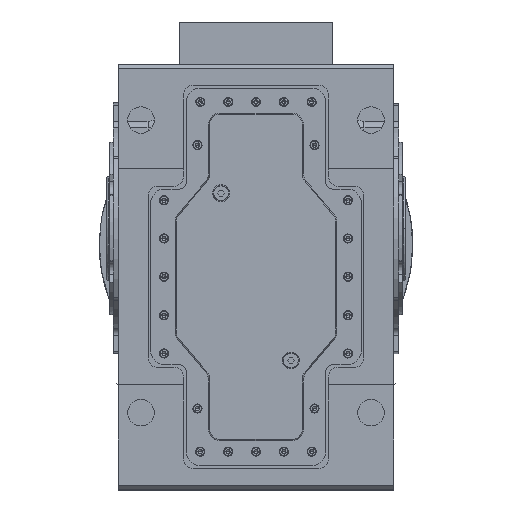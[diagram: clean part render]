
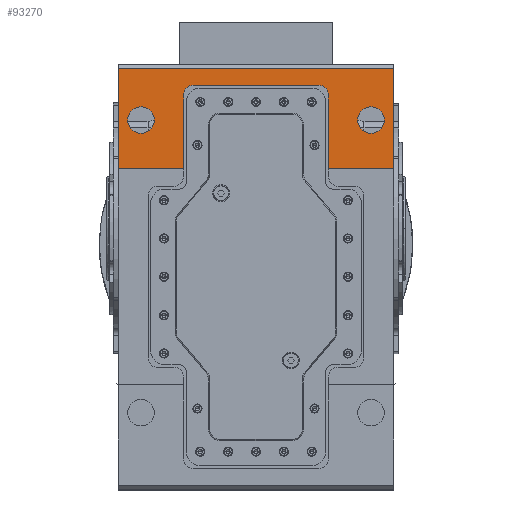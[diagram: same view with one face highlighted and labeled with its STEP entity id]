
A CAD part, top view. The second image highlights one B-rep face of the part: STEP entity #93270.
In plain terms, the highlighted planar face has unit normal (0, 0, 1).
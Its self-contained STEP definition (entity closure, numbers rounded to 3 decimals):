
#1126 = CARTESIAN_POINT ( 'NONE',  ( 146., 177.5, 687. ) ) ;
#1182 = CARTESIAN_POINT ( 'NONE',  ( 184., 177.5, 687. ) ) ;
#1190 = CARTESIAN_POINT ( 'NONE',  ( -184., 177.5, 687. ) ) ;
#1238 = CARTESIAN_POINT ( 'NONE',  ( -146., 177.5, 687. ) ) ;
#2312 = CARTESIAN_POINT ( 'NONE',  ( -104., 107.5, 687. ) ) ;
#2332 = CARTESIAN_POINT ( 'NONE',  ( 104., 213.5, 687. ) ) ;
#2398 = CARTESIAN_POINT ( 'NONE',  ( 104., 107.5, 687. ) ) ;
#2406 = CARTESIAN_POINT ( 'NONE',  ( -90., 227.5, 687. ) ) ;
#2408 = CARTESIAN_POINT ( 'NONE',  ( 90., 227.5, 687. ) ) ;
#2424 = CARTESIAN_POINT ( 'NONE',  ( -104., 213.5, 687. ) ) ;
#7280 = AXIS2_PLACEMENT_3D ( 'NONE', #29389, #29455, #29430 ) ;
#7295 = AXIS2_PLACEMENT_3D ( 'NONE', #29293, #29451, #29394 ) ;
#7453 = AXIS2_PLACEMENT_3D ( 'NONE', #30224, #30237, #30309 ) ;
#14038 = AXIS2_PLACEMENT_3D ( 'NONE', #80771, #80760, #80767 ) ;
#19401 = ORIENTED_EDGE ( 'NONE', *, *, #90608, .T. ) ;
#19405 = ORIENTED_EDGE ( 'NONE', *, *, #90591, .T. ) ;
#19408 = ORIENTED_EDGE ( 'NONE', *, *, #90567, .T. ) ;
#19415 = ORIENTED_EDGE ( 'NONE', *, *, #90581, .T. ) ;
#19416 = ORIENTED_EDGE ( 'NONE', *, *, #80485, .T. ) ;
#19418 = ORIENTED_EDGE ( 'NONE', *, *, #90977, .F. ) ;
#19442 = ORIENTED_EDGE ( 'NONE', *, *, #91003, .T. ) ;
#19448 = ORIENTED_EDGE ( 'NONE', *, *, #80465, .T. ) ;
#19456 = ORIENTED_EDGE ( 'NONE', *, *, #56300, .T. ) ;
#19482 = ORIENTED_EDGE ( 'NONE', *, *, #90768, .T. ) ;
#19498 = ORIENTED_EDGE ( 'NONE', *, *, #56368, .T. ) ;
#19528 = ORIENTED_EDGE ( 'NONE', *, *, #90713, .T. ) ;
#19533 = ORIENTED_EDGE ( 'NONE', *, *, #91014, .F. ) ;
#19537 = ORIENTED_EDGE ( 'NONE', *, *, #90989, .T. ) ;
#26829 = VECTOR ( 'NONE', #29318, 1000. ) ;
#26850 = LINE ( 'NONE', #29286, #26829 ) ;
#26853 = CIRCLE ( 'NONE', #7295, 14. ) ;
#26859 = CIRCLE ( 'NONE', #7280, 14. ) ;
#26901 = VECTOR ( 'NONE', #29437, 1000. ) ;
#26909 = LINE ( 'NONE', #29387, #26901 ) ;
#26989 = CIRCLE ( 'NONE', #7453, 19. ) ;
#27081 = LINE ( 'NONE', #28723, #27167 ) ;
#27167 = VECTOR ( 'NONE', #28705, 1000. ) ;
#28705 = DIRECTION ( 'NONE',  ( 1., 0., 0. ) ) ;
#28723 = CARTESIAN_POINT ( 'NONE',  ( -200., 107.5, 687. ) ) ;
#29286 = CARTESIAN_POINT ( 'NONE',  ( -200., 227.5, 687. ) ) ;
#29293 = CARTESIAN_POINT ( 'NONE',  ( 90., 213.5, 687. ) ) ;
#29318 = DIRECTION ( 'NONE',  ( 1., 0., 0. ) ) ;
#29387 = CARTESIAN_POINT ( 'NONE',  ( 104., 257.5, 687. ) ) ;
#29389 = CARTESIAN_POINT ( 'NONE',  ( -90., 213.5, 687. ) ) ;
#29394 = DIRECTION ( 'NONE',  ( 1., 0., 0. ) ) ;
#29430 = DIRECTION ( 'NONE',  ( 1., 0., 0. ) ) ;
#29437 = DIRECTION ( 'NONE',  ( 0., -1., 0. ) ) ;
#29451 = DIRECTION ( 'NONE',  ( 0., 0., -1. ) ) ;
#29455 = DIRECTION ( 'NONE',  ( 0., 0., -1. ) ) ;
#30224 = CARTESIAN_POINT ( 'NONE',  ( 165., 177.5, 687. ) ) ;
#30237 = DIRECTION ( 'NONE',  ( 0., 0., -1. ) ) ;
#30309 = DIRECTION ( 'NONE',  ( 1., 0., 0. ) ) ;
#31627 = CARTESIAN_POINT ( 'NONE',  ( -197.5, 229.5, 687. ) ) ;
#31687 = CARTESIAN_POINT ( 'NONE',  ( -200., 251.5, 687. ) ) ;
#31689 = DIRECTION ( 'NONE',  ( -1., 0., 0. ) ) ;
#31694 = DIRECTION ( 'NONE',  ( 0., 1., 0. ) ) ;
#31707 = CARTESIAN_POINT ( 'NONE',  ( 120., 107.5, 687. ) ) ;
#31718 = CARTESIAN_POINT ( 'NONE',  ( 197.5, 229.5, 687. ) ) ;
#31724 = DIRECTION ( 'NONE',  ( 1., 0., 0. ) ) ;
#31738 = DIRECTION ( 'NONE',  ( 0., -1., 0. ) ) ;
#31909 = LINE ( 'NONE', #31627, #31915 ) ;
#31915 = VECTOR ( 'NONE', #31694, 1000. ) ;
#32027 = VECTOR ( 'NONE', #31689, 1000. ) ;
#32056 = LINE ( 'NONE', #31687, #32027 ) ;
#32074 = LINE ( 'NONE', #31707, #32075 ) ;
#32075 = VECTOR ( 'NONE', #31724, 1000. ) ;
#32095 = VECTOR ( 'NONE', #31738, 1000. ) ;
#32137 = LINE ( 'NONE', #31718, #32095 ) ;
#33240 = CARTESIAN_POINT ( 'NONE',  ( -165., 177.5, 687. ) ) ;
#33250 = DIRECTION ( 'NONE',  ( 0., 0., -1. ) ) ;
#33256 = DIRECTION ( 'NONE',  ( 1., 0., 0. ) ) ;
#33377 = DIRECTION ( 'NONE',  ( 0., 1., 0. ) ) ;
#33385 = CARTESIAN_POINT ( 'NONE',  ( -104., 257.5, 687. ) ) ;
#46434 = CIRCLE ( 'NONE', #57473, 19. ) ;
#46481 = LINE ( 'NONE', #33385, #46520 ) ;
#46520 = VECTOR ( 'NONE', #33377, 1000. ) ;
#50698 = VERTEX_POINT ( 'NONE', #52910 ) ;
#50782 = VERTEX_POINT ( 'NONE', #53235 ) ;
#50825 = VERTEX_POINT ( 'NONE', #53165 ) ;
#50867 = VERTEX_POINT ( 'NONE', #53308 ) ;
#51650 = EDGE_LOOP ( 'NONE', ( #19442, #19533, #19537, #19418, #19482, #19498, #19405, #19408, #19415, #19401 ) ) ;
#51679 = EDGE_LOOP ( 'NONE', ( #19448, #19528 ) ) ;
#51701 = EDGE_LOOP ( 'NONE', ( #19416, #19456 ) ) ;
#52910 = CARTESIAN_POINT ( 'NONE',  ( -197.5, 107.5, 687. ) ) ;
#53165 = CARTESIAN_POINT ( 'NONE',  ( -197.5, 251.5, 687. ) ) ;
#53235 = CARTESIAN_POINT ( 'NONE',  ( 197.5, 107.5, 687. ) ) ;
#53308 = CARTESIAN_POINT ( 'NONE',  ( 197.5, 251.5, 687. ) ) ;
#56300 = EDGE_CURVE ( 'NONE', #85126, #85089, #46434, .T. ) ;
#56368 = EDGE_CURVE ( 'NONE', #84658, #84672, #46481, .T. ) ;
#57473 = AXIS2_PLACEMENT_3D ( 'NONE', #33240, #33250, #33256 ) ;
#68008 = AXIS2_PLACEMENT_3D ( 'NONE', #95883, #95884, #95847 ) ;
#68021 = AXIS2_PLACEMENT_3D ( 'NONE', #95889, #95902, #95903 ) ;
#77231 = FACE_OUTER_BOUND ( 'NONE', #51650, .T. ) ;
#77233 = FACE_BOUND ( 'NONE', #51701, .T. ) ;
#77262 = FACE_BOUND ( 'NONE', #51679, .T. ) ;
#80465 = EDGE_CURVE ( 'NONE', #85048, #85041, #94893, .T. ) ;
#80485 = EDGE_CURVE ( 'NONE', #85089, #85126, #94923, .T. ) ;
#80760 = DIRECTION ( 'NONE',  ( 0., 0., 1. ) ) ;
#80766 = PLANE ( 'NONE',  #14038 ) ;
#80767 = DIRECTION ( 'NONE',  ( 1., 0., 0. ) ) ;
#80771 = CARTESIAN_POINT ( 'NONE',  ( -200., 257.5, 687. ) ) ;
#84646 = VERTEX_POINT ( 'NONE', #2332 ) ;
#84658 = VERTEX_POINT ( 'NONE', #2312 ) ;
#84668 = VERTEX_POINT ( 'NONE', #2406 ) ;
#84672 = VERTEX_POINT ( 'NONE', #2424 ) ;
#84682 = VERTEX_POINT ( 'NONE', #2408 ) ;
#84691 = VERTEX_POINT ( 'NONE', #2398 ) ;
#85041 = VERTEX_POINT ( 'NONE', #1126 ) ;
#85048 = VERTEX_POINT ( 'NONE', #1182 ) ;
#85089 = VERTEX_POINT ( 'NONE', #1238 ) ;
#85126 = VERTEX_POINT ( 'NONE', #1190 ) ;
#90567 = EDGE_CURVE ( 'NONE', #84668, #84682, #26850, .T. ) ;
#90581 = EDGE_CURVE ( 'NONE', #84682, #84646, #26853, .T. ) ;
#90591 = EDGE_CURVE ( 'NONE', #84672, #84668, #26859, .T. ) ;
#90608 = EDGE_CURVE ( 'NONE', #84646, #84691, #26909, .T. ) ;
#90713 = EDGE_CURVE ( 'NONE', #85041, #85048, #26989, .T. ) ;
#90768 = EDGE_CURVE ( 'NONE', #50698, #84658, #27081, .T. ) ;
#90977 = EDGE_CURVE ( 'NONE', #50698, #50825, #31909, .T. ) ;
#90989 = EDGE_CURVE ( 'NONE', #50867, #50825, #32056, .T. ) ;
#91003 = EDGE_CURVE ( 'NONE', #84691, #50782, #32074, .T. ) ;
#91014 = EDGE_CURVE ( 'NONE', #50867, #50782, #32137, .T. ) ;
#93270 = ADVANCED_FACE ( 'NONE', ( #77231, #77262, #77233 ), #80766, .T. ) ;
#94893 = CIRCLE ( 'NONE', #68008, 19. ) ;
#94923 = CIRCLE ( 'NONE', #68021, 19. ) ;
#95847 = DIRECTION ( 'NONE',  ( 1., 0., 0. ) ) ;
#95883 = CARTESIAN_POINT ( 'NONE',  ( 165., 177.5, 687. ) ) ;
#95884 = DIRECTION ( 'NONE',  ( 0., 0., -1. ) ) ;
#95889 = CARTESIAN_POINT ( 'NONE',  ( -165., 177.5, 687. ) ) ;
#95902 = DIRECTION ( 'NONE',  ( 0., 0., -1. ) ) ;
#95903 = DIRECTION ( 'NONE',  ( 1., 0., 0. ) ) ;
